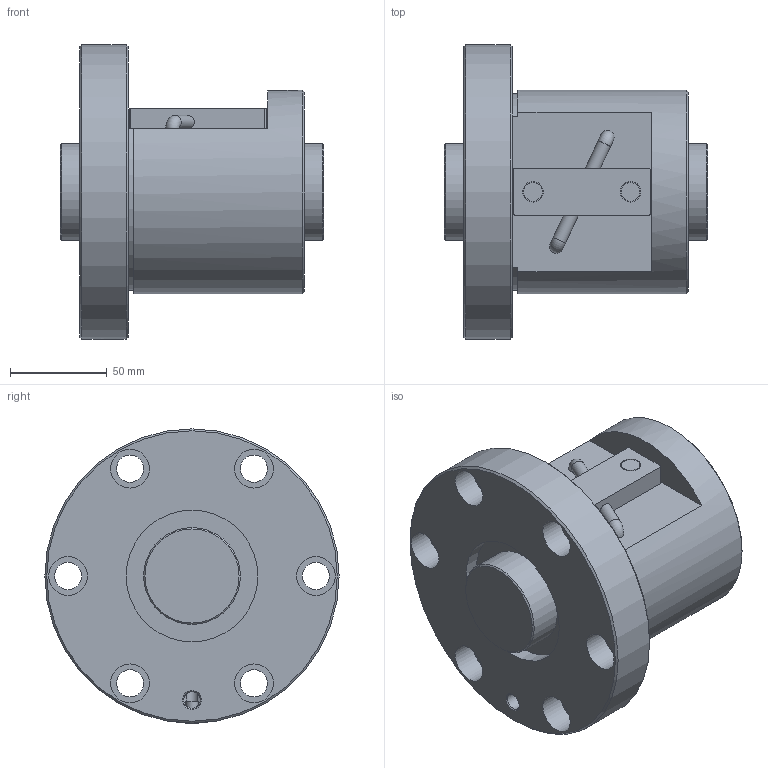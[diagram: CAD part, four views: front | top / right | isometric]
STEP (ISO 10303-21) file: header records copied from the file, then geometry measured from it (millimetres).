
FILE_DESCRIPTION(/* description */ ('STEP AP203'),/* implementation_level */ '2;1');
FILE_NAME(/* name */ 'BNF5016V-2.5RRG1+136LC0_000_rev',/* time_stamp */ '2024-08-06T09:10:01+02:00',/* author */ ('License CC BY-ND 4.0'),/* organization */ ('CADENAS'),/* preprocessor_version */ 'ST-DEVELOPER v19.3',/* originating_system */ 'PARTsolutions',/* authorisation */ ' ');
FILE_SCHEMA (('CONFIG_CONTROL_DESIGN'));
Length unit declared in the file: millimetre
Products named in the file (3): BNF5016V-2.5RRG1+136LC0_000_rev; BNF 5016-2.5RR000 Shaft; BNF 5016-2.5RR Nut
Assembly tree (2 placements, depth 2):
  BNF5016V-2.5RRG1+136LC0_000_rev
    BNF 5016-2.5RR000 Shaft
    BNF 5016-2.5RR Nut
Bounding box: 136 x 152 x 152 mm (x, y, z)
Volume: 1153087.6 mm3; surface area: 130651.1 mm2
Topology: 2 solids, 2 shells, 70 faces, 152 edges, 99 vertices
Faces by surface type: cylinder 33, plane 27, cone 8, torus 2
Full cylindrical faces by diameter (mm): 6.25 x2, 6.998 x2, 8.566 x1, 9.6 x2, 10.6 x2, 14 x6, 20 x6, 50 x2, 68 x2, 105 x1, 152 x1
Entity records: 1811 total; most frequent: CARTESIAN_POINT 321, DIRECTION 316, ORIENTED_EDGE 210, AXIS2_PLACEMENT_3D 146, EDGE_LOOP 140, FACE_BOUND 140, EDGE_CURVE 105, VERTEX_POINT 89
